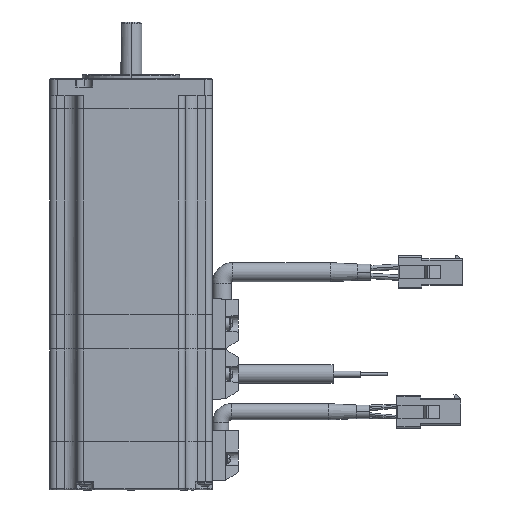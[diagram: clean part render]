
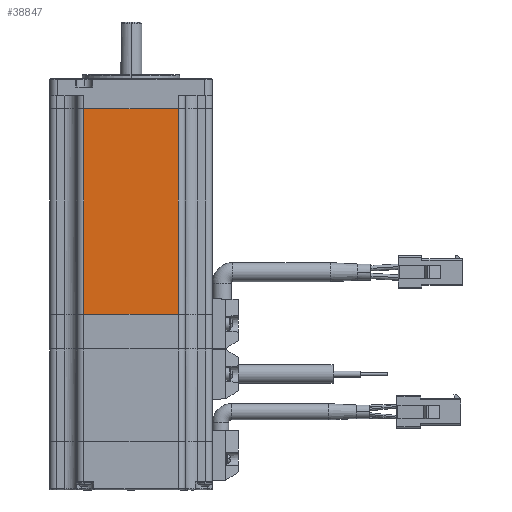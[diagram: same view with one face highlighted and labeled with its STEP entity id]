
A CAD part, left-side view. The second image highlights one B-rep face of the part: STEP entity #38847.
In plain terms, the highlighted planar face has unit normal (-1, 0, 0).
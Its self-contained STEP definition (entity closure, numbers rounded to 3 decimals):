
#1392 = LINE ( 'NONE', #119974, #40687 ) ;
#2651 = VECTOR ( 'NONE', #189297, 1000. ) ;
#4827 = CARTESIAN_POINT ( 'NONE',  ( -29.995, 17.495, 75.8 ) ) ;
#5876 = PLANE ( 'NONE',  #100327 ) ;
#6146 = ORIENTED_EDGE ( 'NONE', *, *, #24521, .F. ) ;
#20737 = DIRECTION ( 'NONE',  ( 1., 0., 0. ) ) ;
#24521 = EDGE_CURVE ( 'NONE', #80600, #132935, #34762, .T. ) ;
#31931 = VECTOR ( 'NONE', #141685, 1000. ) ;
#34762 = LINE ( 'NONE', #164519, #109075 ) ;
#37314 = LINE ( 'NONE', #100400, #2651 ) ;
#38847 = ADVANCED_FACE ( 'NONE', ( #136671 ), #5876, .F. ) ;
#39613 = EDGE_CURVE ( 'NONE', #132935, #70253, #110796, .T. ) ;
#40687 = VECTOR ( 'NONE', #90142, 1000. ) ;
#52864 = CARTESIAN_POINT ( 'NONE',  ( -29.995, -17.495, 75.8 ) ) ;
#65502 = EDGE_CURVE ( 'NONE', #80600, #121198, #1392, .T. ) ;
#70253 = VERTEX_POINT ( 'NONE', #142537 ) ;
#76146 = ORIENTED_EDGE ( 'NONE', *, *, #65502, .T. ) ;
#76862 = ORIENTED_EDGE ( 'NONE', *, *, #139595, .T. ) ;
#79645 = CARTESIAN_POINT ( 'NONE',  ( -29.995, 17.495, 75.8 ) ) ;
#80600 = VERTEX_POINT ( 'NONE', #4827 ) ;
#86346 = CARTESIAN_POINT ( 'NONE',  ( -29.995, 17.495, 0. ) ) ;
#90142 = DIRECTION ( 'NONE',  ( 0., 0., -1. ) ) ;
#100327 = AXIS2_PLACEMENT_3D ( 'NONE', #79645, #20737, #124398 ) ;
#100400 = CARTESIAN_POINT ( 'NONE',  ( -29.995, 17.495, 0. ) ) ;
#109075 = VECTOR ( 'NONE', #179470, 1000. ) ;
#110796 = LINE ( 'NONE', #52864, #31931 ) ;
#119974 = CARTESIAN_POINT ( 'NONE',  ( -29.995, 17.495, 75.8 ) ) ;
#121198 = VERTEX_POINT ( 'NONE', #86346 ) ;
#124398 = DIRECTION ( 'NONE',  ( 0., 1., 0. ) ) ;
#132935 = VERTEX_POINT ( 'NONE', #161631 ) ;
#136671 = FACE_OUTER_BOUND ( 'NONE', #184671, .T. ) ;
#139595 = EDGE_CURVE ( 'NONE', #121198, #70253, #37314, .T. ) ;
#141685 = DIRECTION ( 'NONE',  ( 0., 0., -1. ) ) ;
#142537 = CARTESIAN_POINT ( 'NONE',  ( -29.995, -17.495, 0. ) ) ;
#161631 = CARTESIAN_POINT ( 'NONE',  ( -29.995, -17.495, 75.8 ) ) ;
#164519 = CARTESIAN_POINT ( 'NONE',  ( -29.995, 17.495, 75.8 ) ) ;
#172418 = ORIENTED_EDGE ( 'NONE', *, *, #39613, .F. ) ;
#179470 = DIRECTION ( 'NONE',  ( 0., -1., 0. ) ) ;
#184671 = EDGE_LOOP ( 'NONE', ( #76862, #172418, #6146, #76146 ) ) ;
#189297 = DIRECTION ( 'NONE',  ( 0., -1., 0. ) ) ;
